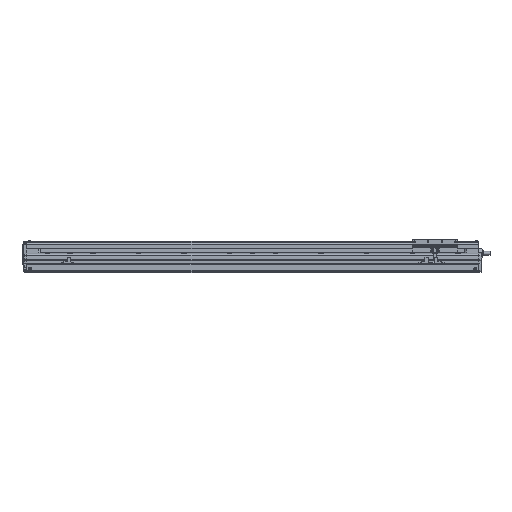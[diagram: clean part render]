
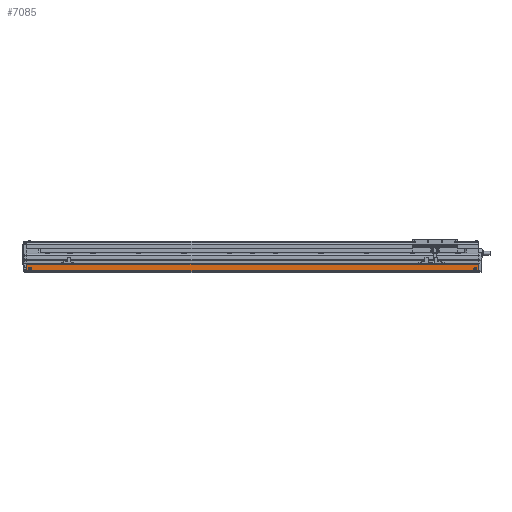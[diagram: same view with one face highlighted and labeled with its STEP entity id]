
A CAD part, left-side view. The second image highlights one B-rep face of the part: STEP entity #7085.
In plain terms, the highlighted planar face has unit normal (-1, 0, 0).
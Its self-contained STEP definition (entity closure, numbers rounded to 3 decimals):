
#7085=ADVANCED_FACE('',(#14403,#14404,#14405),#14406,.F.);
#14403=FACE_BOUND('',#23310,.T.);
#14404=FACE_BOUND('',#23311,.T.);
#14405=FACE_OUTER_BOUND('',#23312,.T.);
#14406=PLANE('',#23313);
#23310=EDGE_LOOP('',(#44293,#44294));
#23311=EDGE_LOOP('',(#44295,#44296));
#23312=EDGE_LOOP('',(#44297,#44298,#44299,#44300));
#23313=AXIS2_PLACEMENT_3D('',#44301,#44302,#44303);
#44293=ORIENTED_EDGE('',*,*,#48021,.F.);
#44294=ORIENTED_EDGE('',*,*,#48584,.F.);
#44295=ORIENTED_EDGE('',*,*,#49036,.F.);
#44296=ORIENTED_EDGE('',*,*,#54075,.F.);
#44297=ORIENTED_EDGE('',*,*,#49429,.F.);
#44298=ORIENTED_EDGE('',*,*,#49707,.F.);
#44299=ORIENTED_EDGE('',*,*,#53639,.F.);
#44300=ORIENTED_EDGE('',*,*,#46357,.T.);
#44301=CARTESIAN_POINT('',(-63.5,737.222,-30.942));
#44302=DIRECTION('',(1.,0.,0.));
#44303=DIRECTION('',(0.,0.,1.));
#46357=EDGE_CURVE('',#55427,#55424,#55428,.T.);
#48021=EDGE_CURVE('',#58314,#58316,#58317,.T.);
#48584=EDGE_CURVE('',#58316,#58314,#59222,.T.);
#49036=EDGE_CURVE('',#59933,#59935,#59936,.T.);
#49429=EDGE_CURVE('',#60547,#55424,#60549,.T.);
#49707=EDGE_CURVE('',#60960,#60547,#60962,.T.);
#53639=EDGE_CURVE('',#55427,#60960,#66209,.T.);
#54075=EDGE_CURVE('',#59935,#59933,#66674,.T.);
#55424=VERTEX_POINT('',#68585);
#55427=VERTEX_POINT('',#68588);
#55428=LINE('',#68589,#68590);
#58314=VERTEX_POINT('',#72952);
#58316=VERTEX_POINT('',#72955);
#58317=CIRCLE('',#72956,3.25);
#59222=CIRCLE('',#74254,3.25);
#59933=VERTEX_POINT('',#75253);
#59935=VERTEX_POINT('',#75256);
#59936=CIRCLE('',#75257,3.25);
#60547=VERTEX_POINT('',#76186);
#60549=LINE('',#76188,#76189);
#60960=VERTEX_POINT('',#76779);
#60962=LINE('',#76781,#76782);
#66209=LINE('',#84675,#84676);
#66674=CIRCLE('',#85327,3.25);
#68585=CARTESIAN_POINT('',(-63.5,-252.778,-37.864));
#68588=CARTESIAN_POINT('',(-63.5,737.222,-37.864));
#68589=CARTESIAN_POINT('',(-63.5,737.222,-37.864));
#68590=VECTOR('',#86355,10.0);
#72952=CARTESIAN_POINT('',(-63.5,-249.028,-34.));
#72955=CARTESIAN_POINT('',(-63.5,-242.528,-34.));
#72956=AXIS2_PLACEMENT_3D('',#88398,#88399,#88400);
#74254=AXIS2_PLACEMENT_3D('',#89073,#89074,#89075);
#75253=CARTESIAN_POINT('',(-63.5,733.472,-34.));
#75256=CARTESIAN_POINT('',(-63.5,726.972,-34.));
#75257=AXIS2_PLACEMENT_3D('',#89615,#89616,#89617);
#76186=CARTESIAN_POINT('',(-63.5,-252.778,-24.02));
#76188=CARTESIAN_POINT('',(-63.5,-252.778,-37.864));
#76189=VECTOR('',#90056,10.0);
#76779=CARTESIAN_POINT('',(-63.5,737.222,-24.02));
#76781=CARTESIAN_POINT('',(-63.5,737.222,-24.02));
#76782=VECTOR('',#90389,10.0);
#84675=CARTESIAN_POINT('',(-63.5,737.222,-37.864));
#84676=VECTOR('',#94705,10.0);
#85327=AXIS2_PLACEMENT_3D('',#95024,#95025,#95026);
#86355=DIRECTION('',(0.,-1.0,0.));
#88398=CARTESIAN_POINT('',(-63.5,-245.778,-34.));
#88399=DIRECTION('',(-1.,0.,0.));
#88400=DIRECTION('',(0.,-1.0,0.));
#89073=CARTESIAN_POINT('',(-63.5,-245.778,-34.));
#89074=DIRECTION('',(-1.,0.,0.));
#89075=DIRECTION('',(0.,-1.0,0.));
#89615=CARTESIAN_POINT('',(-63.5,730.222,-34.));
#89616=DIRECTION('',(-1.,0.,0.));
#89617=DIRECTION('',(0.,1.0,0.));
#90056=DIRECTION('',(0.,0.,-1.));
#90389=DIRECTION('',(0.,-1.0,0.));
#94705=DIRECTION('',(0.,0.,1.));
#95024=CARTESIAN_POINT('',(-63.5,730.222,-34.));
#95025=DIRECTION('',(-1.,0.,0.));
#95026=DIRECTION('',(0.,1.0,0.));
